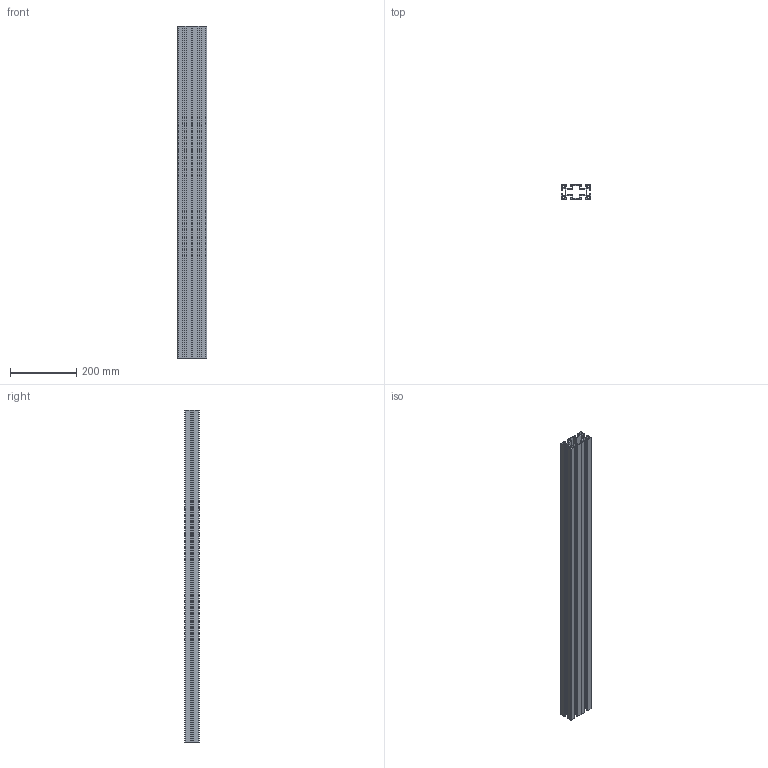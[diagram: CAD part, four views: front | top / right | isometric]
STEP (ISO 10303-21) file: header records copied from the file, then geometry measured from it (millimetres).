
FILE_DESCRIPTION (( 'STEP AP203' ), '1' );
FILE_NAME ('TC44x88.STEP', '2009-04-22T09:41:17', ( 'faber' ), ( '' ), 'SwSTEP 2.0', 'SolidWorks 2008', '' );
FILE_SCHEMA (( 'CONFIG_CONTROL_DESIGN' ));
Length unit declared in the file: millimetre
Products named in the file (1): TC44x88
Bounding box: 88 x 44 x 1000 mm (x, y, z)
Volume: 886424 mm3; surface area: 819200.9 mm2
Topology: 1 solids, 1 shells, 210 faces, 624 edges, 416 vertices
Faces by surface type: plane 118, cylinder 92
Entity records: 7169 total; most frequent: CARTESIAN_POINT 1251, ORIENTED_EDGE 1248, DIRECTION 1230, EDGE_CURVE 624, VECTOR 440, LINE 440, VERTEX_POINT 416, AXIS2_PLACEMENT_3D 395
